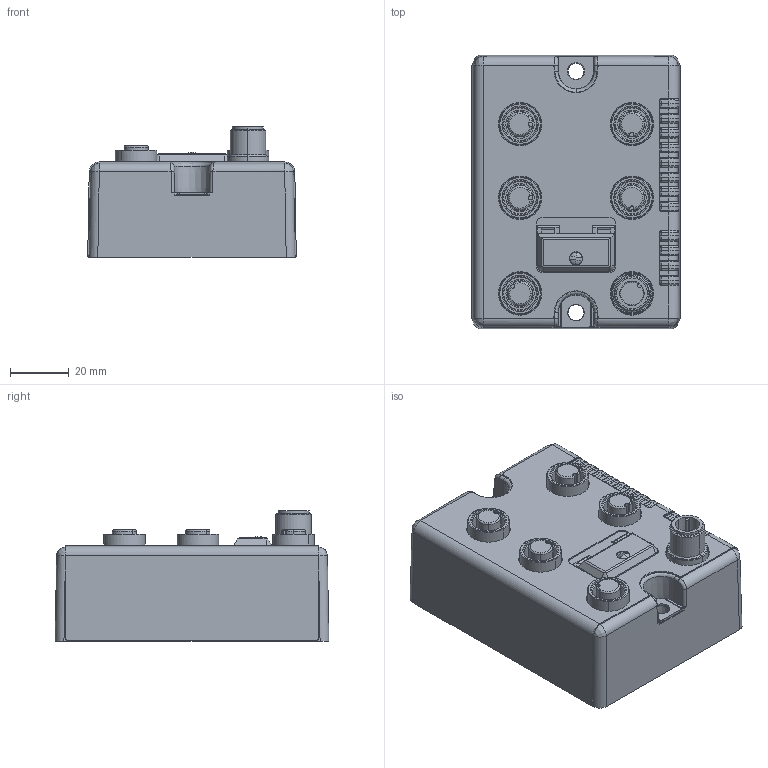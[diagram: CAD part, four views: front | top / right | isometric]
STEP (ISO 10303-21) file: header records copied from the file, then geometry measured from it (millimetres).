
FILE_DESCRIPTION (( 'STEP AP203' ), '1' );
FILE_NAME ('BLC-4M12S.step', '2016-07-25T18:42:34', ( 'Turck User' ), ( '' ), 'SwSTEP 2.0', 'SolidWorks 2015', '' );
FILE_SCHEMA (( 'CONFIG_CONTROL_DESIGN' ));
Length unit declared in the file: millimetre
Products named in the file (2): BLC-4M12S
Bounding box: 70.85 x 93 x 44.43 mm (x, y, z)
Volume: 208628.9 mm3; surface area: 31277.8 mm2
Topology: 1 solids, 15 shells, 1074 faces, 2793 edges, 1734 vertices
Faces by surface type: plane 422, cylinder 379, bspline 133, cone 74, torus 42, sphere 24
Entity records: 57442 total; most frequent: CARTESIAN_POINT 33310, ORIENTED_EDGE 5498, DIRECTION 4418, EDGE_CURVE 2749, VERTEX_POINT 1722, AXIS2_PLACEMENT_3D 1568, LINE 1282, VECTOR 1282
